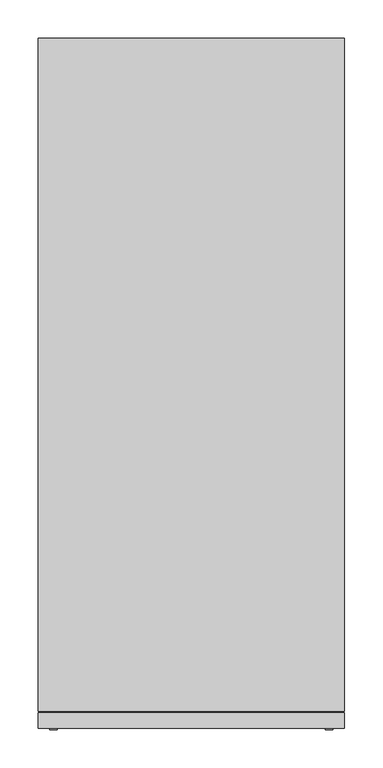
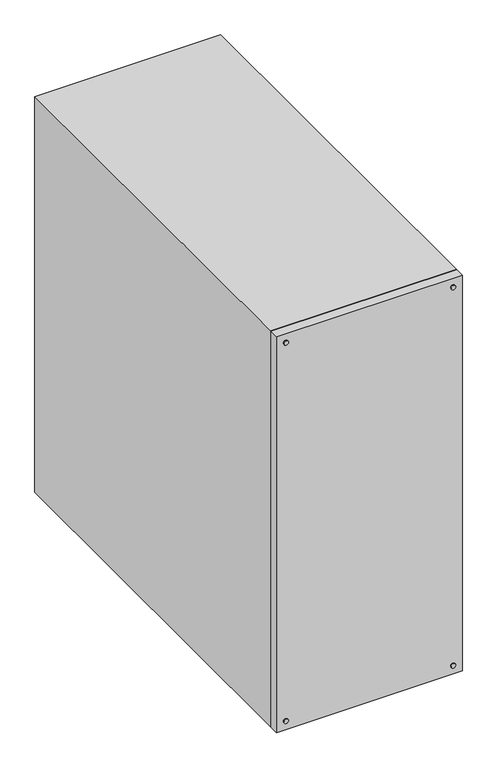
"""IFC4 building model written with IfcOpenShell, lengths in millimetres: proxy geometry, 20206_プルボックス_大_強電用 : 幹線設備."""

from ifc_helpers import new_model, si_unit, point, frame, frame_2d, origin, place, context, project, spatial, circle_curve, trimmed, segment, composite_curve, outline, extrude, faceted_brep, source, transform, mapped, element, save


def electrical_fixtures_c73e226d(model_context):
    return source(origin(), model_context, "Body", "SolidModel", [
        extrude(outline(composite_curve([segment(trimmed(circle_curve(frame_2d((880.0, -180.0)), 5.0), [point((880.0, -175.0))], [point((880.0, -185.0))], False, "CARTESIAN"), True, "CONTINUOUS"), segment(trimmed(circle_curve(frame_2d((880.0, -180.0)), 5.0), [point((880.0, -185.0))], [point((880.0, -175.0))], False, "CARTESIAN"), True, "CONTINUOUS")], self_intersect=False)), frame((0.0, -452.0, 0.0), z_axis=(0.0, 1.0, 0.0), x_axis=(0.0, 0.0, 1.0)), (0.0, 0.0, 1.0), 2.0),
        extrude(outline(composite_curve([segment(trimmed(circle_curve(frame_2d((880.0, 180.0)), 5.0), [point((880.0, 185.0))], [point((880.0, 175.0))], False, "CARTESIAN"), True, "CONTINUOUS"), segment(trimmed(circle_curve(frame_2d((880.0, 180.0)), 5.0), [point((880.0, 175.0))], [point((880.0, 185.0))], False, "CARTESIAN"), True, "CONTINUOUS")], self_intersect=False)), frame((0.0, -452.0, 0.0), z_axis=(0.0, 1.0, 0.0), x_axis=(0.0, 0.0, 1.0)), (0.0, 0.0, 1.0), 2.0),
        extrude(outline(composite_curve([segment(trimmed(circle_curve(frame_2d((20.0, -180.0)), 5.0), [point((20.0, -175.0))], [point((20.0, -185.0))], False, "CARTESIAN"), True, "CONTINUOUS"), segment(trimmed(circle_curve(frame_2d((20.0, -180.0)), 5.0), [point((20.0, -185.0))], [point((20.0, -175.0))], False, "CARTESIAN"), True, "CONTINUOUS")], self_intersect=False)), frame((0.0, -452.0, 0.0), z_axis=(0.0, 1.0, 0.0), x_axis=(0.0, 0.0, 1.0)), (0.0, 0.0, 1.0), 2.0),
        extrude(outline(composite_curve([segment(trimmed(circle_curve(frame_2d((20.0, 180.0)), 5.0), [point((20.0, 185.0))], [point((20.0, 175.0))], False, "CARTESIAN"), True, "CONTINUOUS"), segment(trimmed(circle_curve(frame_2d((20.0, 180.0)), 5.0), [point((20.0, 175.0))], [point((20.0, 185.0))], False, "CARTESIAN"), True, "CONTINUOUS")], self_intersect=False)), frame((0.0, -452.0, 0.0), z_axis=(0.0, 1.0, 0.0), x_axis=(0.0, 0.0, 1.0)), (0.0, 0.0, 1.0), 2.0),
        faceted_brep([(200.0, 450.0, 900.0), (-200.0, 450.0, 900.0), (-200.0, -428.1279995, 900.0), (200.0, -428.1279995, 900.0), (-200.0, -450.0, 900.0), (200.0, -450.0, 900.0), (200.0, -430.1279995, 900.0), (-200.0, -430.1279995, 900.0), (200.0, -450.0, 0.0), (-200.0, -450.0, 0.0), (-200.0, -430.1279995, 0.0), (200.0, -430.1279995, 0.0), (-200.0, 450.0, 0.0), (200.0, 450.0, 0.0), (200.0, -428.1279995, 0.0), (-200.0, -428.1279995, 0.0), (198.0, -430.1279995, 898.0), (198.0, -430.1279995, 2.0), (198.0, -428.1279995, 2.0), (198.0, -428.1279995, 898.0), (-198.0, -430.1279995, 2.0), (-198.0, -428.1279995, 2.0), (-198.0, -430.1279995, 898.0), (-198.0, -428.1279995, 898.0)], [[[0, 1, 2, 3]], [[4, 5, 6, 7]], [[8, 9, 10, 11]], [[12, 13, 14, 15]], [[1, 0, 13, 12]], [[1, 12, 15, 2]], [[9, 4, 7, 10]], [[5, 4, 9, 8]], [[13, 0, 3, 14]], [[5, 8, 11, 6]], [[16, 17, 18, 19]], [[18, 17, 20, 21]], [[21, 20, 22, 23]], [[3, 2, 15, 14], [19, 18, 21, 23]], [[16, 19, 23, 22]], [[7, 6, 11, 10], [17, 16, 22, 20]]]),
    ])


if __name__ == "__main__":
    model = new_model("IFC4")
    model_context = context("Model", 3, world=origin())
    ifc_project = project(units=[si_unit("LENGTHUNIT", "METRE", prefix="MILLI")], contexts=[model_context])
    site = spatial("IfcSite", under=ifc_project)
    building = spatial("IfcBuilding", under=site)
    placement = place(None, origin())
    electrical_fixtures_shape = electrical_fixtures_c73e226d(model_context)
    element("IfcBuildingElementProxy", 1, Name="20206_プルボックス_大_強電用 : 幹線設備", ObjectType="20206_プルボックス_大_強電用 : 幹線設備", at=placement, inside=building, context=model_context, shape_type="MappedRepresentation", body=[
        mapped(electrical_fixtures_shape, transform((0.0, 0.0, 0.0), x_axis=(1.0, 0.0, 0.0), y_axis=(0.0, 1.0, 0.0), z_axis=(0.0, 0.0, 1.0))),
    ])
    save(model, "model.ifc")
